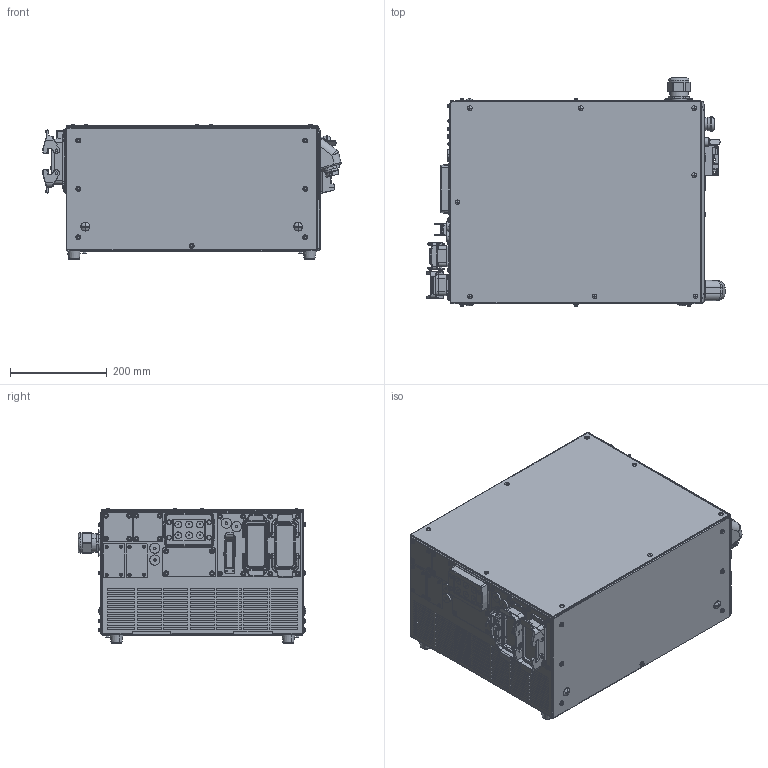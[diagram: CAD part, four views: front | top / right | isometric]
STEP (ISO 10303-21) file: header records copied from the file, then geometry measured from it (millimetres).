
FILE_DESCRIPTION(('CATIA V5 STEP Exchange'),'2;1');
FILE_NAME('D:\モデリング\☆☆☆CONTROLLER\210118_F0x\元データ\CATIA\③最新_ロゴありデータ貰いなおし_210119\軽量化\Part\F04_CONTROLLER.stp','2021-01-22T06:59:17+00:00',('none'),('none'),'CATIA Version 5-6 Release 2016 SP6 HF14','CATIA V5 STEP AP203','none');
FILE_SCHEMA(('CONFIG_CONTROL_DESIGN'));
Products named in the file (1): F04_CONTROLLER
Bounding box: 617.52 x 472.01 x 279 mm (x, y, z)
Volume: 58080707.8 mm3; surface area: 1077898.8 mm2
Topology: 1 solids, 1 shells, 5345 faces, 13713 edges, 8905 vertices
Faces by surface type: plane 3081, cylinder 1319, bspline 465, torus 240, sphere 138, cone 79, extrusion 19, revolution 4
Entity records: 181058 total; most frequent: CARTESIAN_POINT 62758, ORIENTED_EDGE 27138, DIRECTION 18900, EDGE_CURVE 13569, VERTEX_POINT 8905, VECTOR 8425, LINE 8406, AXIS2_PLACEMENT_3D 6578
